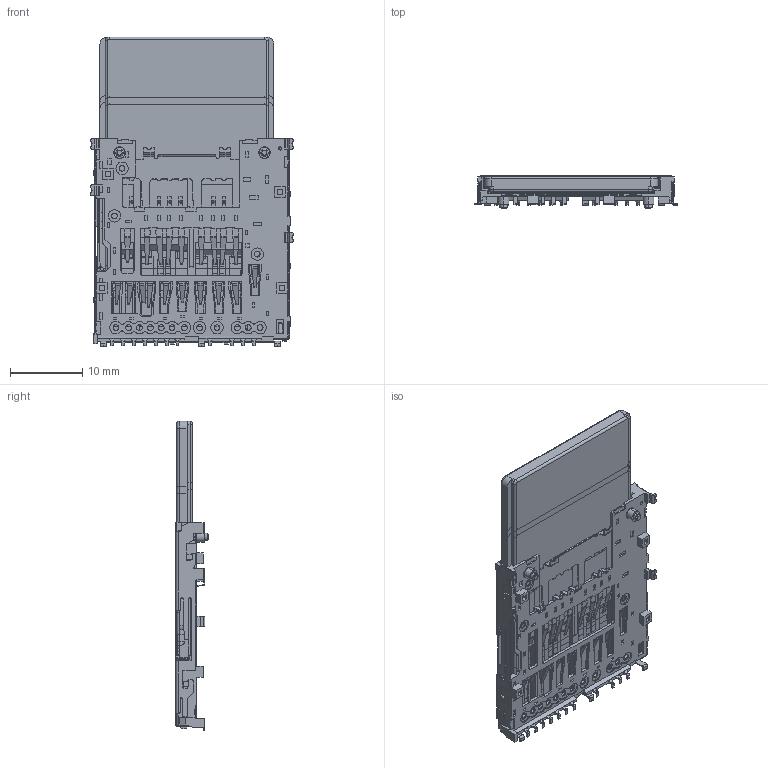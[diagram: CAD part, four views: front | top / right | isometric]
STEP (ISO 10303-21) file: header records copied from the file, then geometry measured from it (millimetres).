
FILE_DESCRIPTION((''),'2;1');
FILE_NAME('ASM0001_ASM','2021-09-13T09:36:40',('Alexander'),(''),'CREO PARAMETRIC BY PTC INC, 2021164','CREO PARAMETRIC BY PTC INC, 2021164','');
FILE_SCHEMA(('CONFIG_CONTROL_DESIGN'));
Products named in the file (5): SD400_LINK_000_1; SD_CARD_ALL_TYPE_SD_7_0_NORMA_1; 1_SD400__10001; SD400__1_20001_ASM; ASM0001_ASM
Assembly tree (6 placements, depth 3):
  ASM0001_ASM
    SD400__1_20001_ASM
      SD400_LINK_000_1
      SD_CARD_ALL_TYPE_SD_7_0_NORMA_1  x3
      1_SD400__10001
Bounding box: 27.9 x 4.55 x 42.75 mm (x, y, z)
Volume: 4670.7 mm3; surface area: 8742.4 mm2
Topology: 5 solids, 5 shells, 3539 faces, 9889 edges, 6436 vertices
Faces by surface type: plane 2393, cylinder 1026, bspline 54, torus 34, sphere 18, cone 14
Entity records: 102935 total; most frequent: CARTESIAN_POINT 19022, ORIENTED_EDGE 17854, DIRECTION 17195, EDGE_CURVE 8927, VECTOR 6785, LINE 6785, VERTEX_POINT 5818, AXIS2_PLACEMENT_3D 5205
